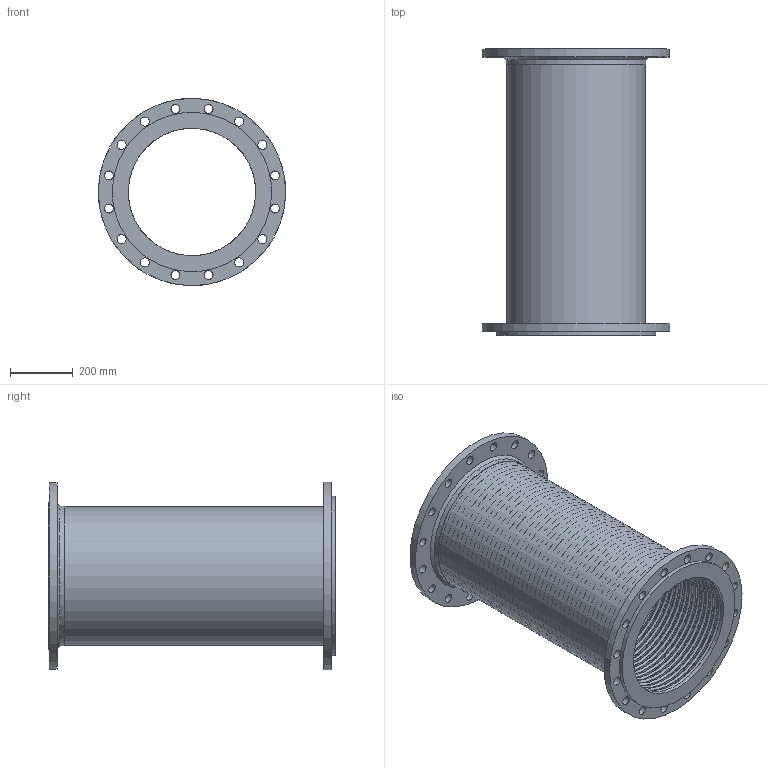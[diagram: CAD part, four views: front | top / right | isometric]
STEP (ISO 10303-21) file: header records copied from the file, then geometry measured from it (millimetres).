
FILE_DESCRIPTION((''),'2;1');
FILE_NAME('C:\REVIT SHARED FILES\STP\FFL16x36ASA150.stp','2013-06-14T19:35:21',('rramoutar'),(''),'Autodesk Inventor 2012','Autodesk Inventor 2012','');
FILE_SCHEMA(('AUTOMOTIVE_DESIGN { 1 0 10303 214 1 1 1 1 }'));
Length unit declared in the file: inch
Products named in the file (8): FFL 16x36 Per A-30316-3; FFL 16x36 Per A-30316-3_Welds; A-30302-2 FIXED FLANGE 16 inch 150 #; A-30303-1 FLOATING FLANGE 16 inch 150 #; A-30304-2 FFL WELDED WASHER 16 inch 150 #; A-29781-7 16.0 inch braid collar; FFL 16x36 Stainless Hose; FFL 16x36 Stainless Braid
Assembly tree (8 placements, depth 2):
  FFL 16x36 Per A-30316-3
    FFL 16x36 Per A-30316-3_Welds
    A-30302-2 FIXED FLANGE 16 inch 150 #
    A-30303-1 FLOATING FLANGE 16 inch 150 #
    A-30304-2 FFL WELDED WASHER 16 inch 150 #
    A-29781-7 16.0 inch braid collar  x2
    FFL 16x36 Stainless Hose
    FFL 16x36 Stainless Braid
Bounding box: 596.76 x 914.4 x 596.76 mm (x, y, z)
Volume: 10888864 mm3; surface area: 8990414.9 mm2
Topology: 9 solids, 9 shells, 437 faces, 711 edges, 475 vertices
Faces by surface type: plane 201, torus 186, cylinder 47, bspline 2, cone 1
Full cylindrical faces by diameter (mm): 28.575 x32, 406.4 x2, 441.198 x1, 443.23 x3, 445.611 x4, 450.85 x1, 469.9 x1, 508 x1, 596.9 x2
Entity records: 9878 total; most frequent: CARTESIAN_POINT 1837, DIRECTION 1816, ORIENTED_EDGE 942, EDGE_LOOP 928, AXIS2_PLACEMENT_3D 908, FACE_BOUND 495, EDGE_CURVE 471, VERTEX_POINT 469
